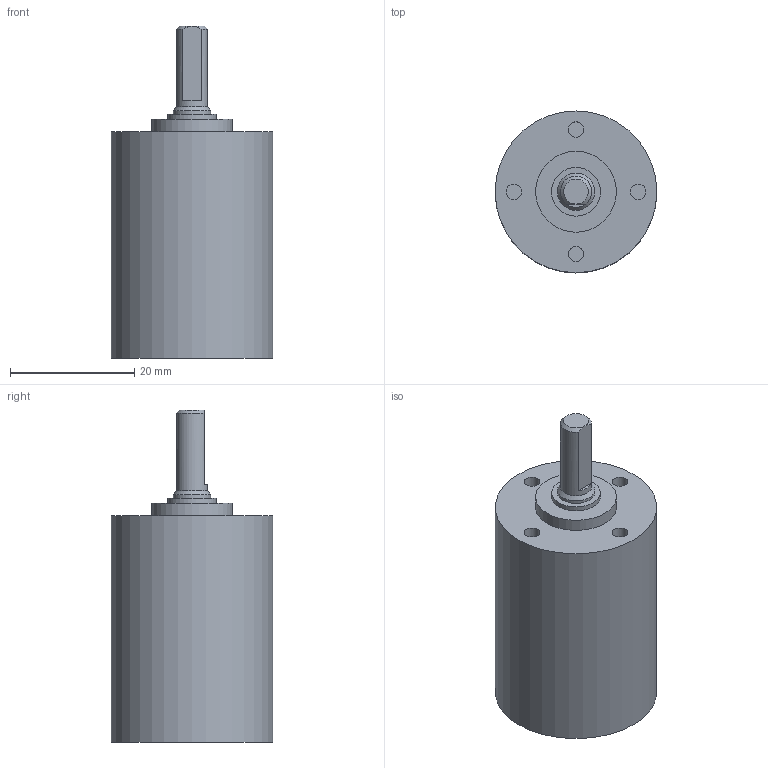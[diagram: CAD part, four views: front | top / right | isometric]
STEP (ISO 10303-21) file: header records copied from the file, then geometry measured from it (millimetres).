
FILE_DESCRIPTION(/* description */ (''),/* implementation_level */ '2;1');
FILE_NAME(/* name */ '26-1R_2stage.stp',/* time_stamp */ '2017-04-18T12:18:31+02:00',/* author */ ('DR. FRITZ FAULHABER GmbH & Co. KG'),/* organization */ ('DR. FRITZ FAULHABER GmbH & Co. KG'),/* preprocessor_version */ 'ST-DEVELOPER v16',/* originating_system */ 'SIEMENS PLM Software NX 10.0',/* authorisation */ '');
FILE_SCHEMA (('AUTOMOTIVE_DESIGN { 1 0 10303 214 3 1 1 1 }'));
Length unit declared in the file: millimetre
Products named in the file (1): H00000164_B
Bounding box: 26 x 26 x 53.4 mm (x, y, z)
Volume: 15425 mm3; surface area: 5338.7 mm2
Topology: 1 solids, 1 shells, 34 faces, 57 edges, 38 vertices
Faces by surface type: plane 17, cylinder 15, cone 2
Full cylindrical faces by diameter (mm): 2.5 x4, 5 x1, 6 x1, 7.85 x1, 11.69 x1, 11.7 x1, 13 x1, 21.5 x1, 22.05 x1, 24 x1, 24.459 x1, 26 x1
Entity records: 723 total; most frequent: DIRECTION 137, CARTESIAN_POINT 112, ORIENTED_EDGE 74, AXIS2_PLACEMENT_3D 67, EDGE_LOOP 63, FACE_BOUND 54, EDGE_CURVE 37, ADVANCED_FACE 34
